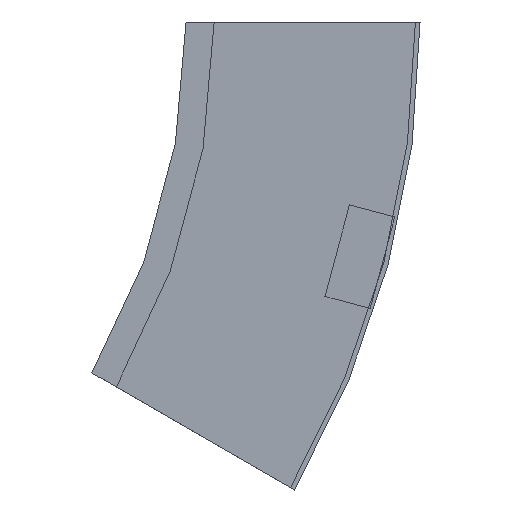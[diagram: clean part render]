
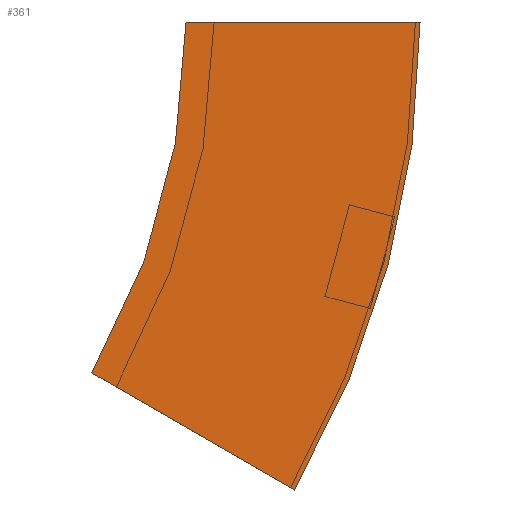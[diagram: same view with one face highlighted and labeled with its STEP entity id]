
A CAD part, left-side view. The second image highlights one B-rep face of the part: STEP entity #361.
In plain terms, the highlighted planar face has unit normal (-1, 0, 0) as drawn and (1, 0, 0) by its records, which use the part's own axes.
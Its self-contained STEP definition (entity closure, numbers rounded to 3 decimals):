
#41 = VERTEX_POINT ( 'NONE', #387 ) ;
#57 = CIRCLE ( 'NONE', #136, 300. ) ;
#71 = CARTESIAN_POINT ( 'NONE',  ( 0., -46.41, -200. ) ) ;
#82 = CARTESIAN_POINT ( 'NONE',  ( 0., 40.192, -150. ) ) ;
#87 = AXIS2_PLACEMENT_3D ( 'NONE', #271, #454, #483 ) ;
#134 = EDGE_CURVE ( 'NONE', #240, #505, #57, .T. ) ;
#136 = AXIS2_PLACEMENT_3D ( 'NONE', #500, #268, #411 ) ;
#187 = CARTESIAN_POINT ( 'NONE',  ( 0., 0., 0. ) ) ;
#195 = CIRCLE ( 'NONE', #257, 400. ) ;
#197 = EDGE_CURVE ( 'NONE', #41, #505, #363, .T. ) ;
#213 = CARTESIAN_POINT ( 'NONE',  ( 0., -100., 0. ) ) ;
#227 = EDGE_LOOP ( 'NONE', ( #267, #546, #346, #507 ) ) ;
#240 = VERTEX_POINT ( 'NONE', #187 ) ;
#246 = LINE ( 'NONE', #285, #436 ) ;
#257 = AXIS2_PLACEMENT_3D ( 'NONE', #479, #471, #283 ) ;
#267 = ORIENTED_EDGE ( 'NONE', *, *, #134, .F. ) ;
#268 = DIRECTION ( 'NONE',  ( 1., 0., 0. ) ) ;
#271 = CARTESIAN_POINT ( 'NONE',  ( 0., -100., 0. ) ) ;
#283 = DIRECTION ( 'NONE',  ( 0., -1., 0. ) ) ;
#285 = CARTESIAN_POINT ( 'NONE',  ( 0., -100., 0. ) ) ;
#314 = EDGE_CURVE ( 'NONE', #375, #240, #246, .T. ) ;
#315 = PLANE ( 'NONE',  #87 ) ;
#322 = VECTOR ( 'NONE', #325, 1000. ) ;
#325 = DIRECTION ( 'NONE',  ( 0., 0.866, 0.5 ) ) ;
#340 = EDGE_CURVE ( 'NONE', #375, #41, #195, .T. ) ;
#346 = ORIENTED_EDGE ( 'NONE', *, *, #340, .T. ) ;
#361 = ADVANCED_FACE ( 'NONE', ( #527 ), #315, .F. ) ;
#363 = LINE ( 'NONE', #71, #322 ) ;
#370 = DIRECTION ( 'NONE',  ( 0., 1., 0. ) ) ;
#375 = VERTEX_POINT ( 'NONE', #213 ) ;
#387 = CARTESIAN_POINT ( 'NONE',  ( 0., -46.41, -200. ) ) ;
#411 = DIRECTION ( 'NONE',  ( 0., -1., 0. ) ) ;
#436 = VECTOR ( 'NONE', #370, 1000. ) ;
#454 = DIRECTION ( 'NONE',  ( -1., 0., 0. ) ) ;
#471 = DIRECTION ( 'NONE',  ( 1., 0., 0. ) ) ;
#479 = CARTESIAN_POINT ( 'NONE',  ( 0., 300., 0. ) ) ;
#483 = DIRECTION ( 'NONE',  ( 0., 0., 1. ) ) ;
#500 = CARTESIAN_POINT ( 'NONE',  ( 0., 300., 0. ) ) ;
#505 = VERTEX_POINT ( 'NONE', #82 ) ;
#507 = ORIENTED_EDGE ( 'NONE', *, *, #197, .T. ) ;
#527 = FACE_OUTER_BOUND ( 'NONE', #227, .T. ) ;
#546 = ORIENTED_EDGE ( 'NONE', *, *, #314, .F. ) ;
